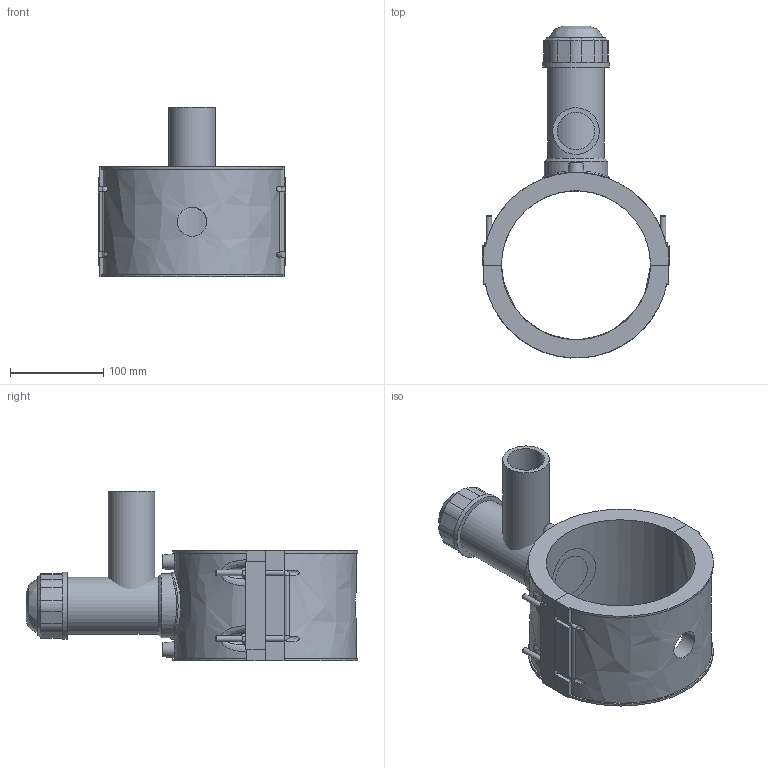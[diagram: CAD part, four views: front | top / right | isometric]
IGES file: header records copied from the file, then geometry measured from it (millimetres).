
Global section: file name: 4963P4160050; native system: Autodesk Inventor 2019; preprocessor: unknown; author: KIM; date: 20220317.113023; units: millimetre
Bounding box: 201 x 356.39 x 182 mm (x, y, z)
Volume: 1578031.5 mm3; surface area: 277132.7 mm2
Topology: 3 solids, 3 shells, 194 faces, 499 edges, 329 vertices
Faces by surface type: bspline 194
